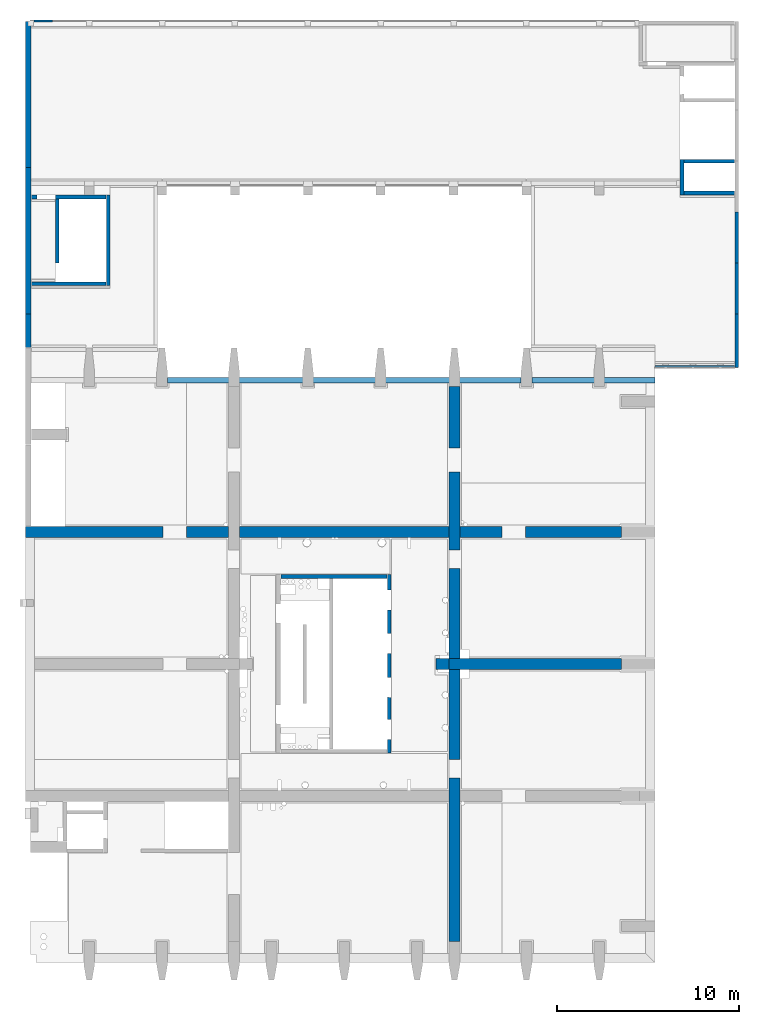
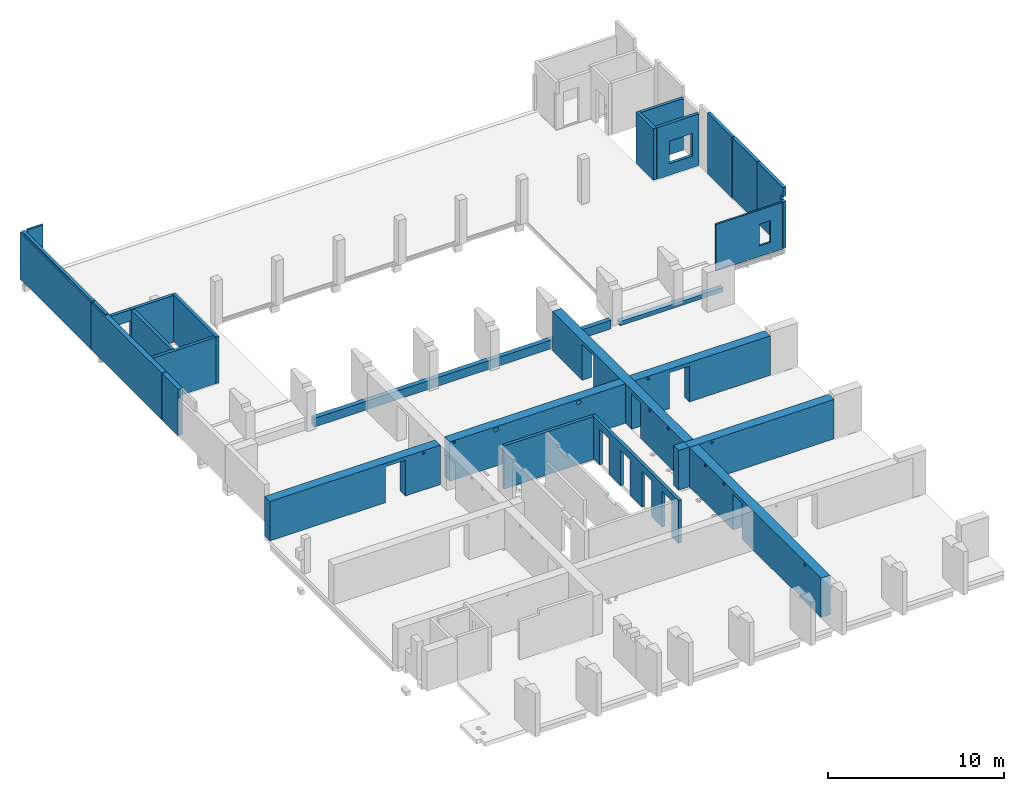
# One storey, part 8 of 10: 24 walls, 36 openings.
"""IFC2X3 building model written with IfcOpenShell, lengths in millimetres."""

from ifc_helpers import new_model, entity, si_unit, converted_unit, derived_unit, direction, frame, frame_2d, origin, origin_2d_with_axis, place, context, subcontext, project, spatial, rectangle, circle, extrude, faceted_brep, material, layer, layer_set, layer_usage, type_object, element, save


model = new_model("IFC2X3")

# Units and contexts
model_context = context("Model", 3, precision=0.01, world=origin(), true_north=direction((6.12303176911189e-17, 1.0)))
body_context = subcontext(model_context, "Body", "Model", "MODEL_VIEW")
ifc_project = project(units=[si_unit("LENGTHUNIT", "METRE", prefix="MILLI"), si_unit("AREAUNIT", "SQUARE_METRE"), si_unit("VOLUMEUNIT", "CUBIC_METRE"), converted_unit("PLANEANGLEUNIT", "DEGREE", entity("IfcRatioMeasure", 0.0174532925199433), si_unit("PLANEANGLEUNIT", "RADIAN"), dimensions=[0, 0, 0, 0, 0, 0, 0]), si_unit("MASSUNIT", "GRAM", prefix="KILO"), derived_unit("MASSDENSITYUNIT", [(si_unit("MASSUNIT", "GRAM", prefix="KILO"), 1), (si_unit("LENGTHUNIT", "METRE"), -3)]), si_unit("TIMEUNIT", "SECOND"), si_unit("FREQUENCYUNIT", "HERTZ"), si_unit("THERMODYNAMICTEMPERATUREUNIT", "DEGREE_CELSIUS"), derived_unit("THERMALTRANSMITTANCEUNIT", [(si_unit("MASSUNIT", "GRAM", prefix="KILO"), 1), (si_unit("THERMODYNAMICTEMPERATUREUNIT", "KELVIN"), -1), (si_unit("TIMEUNIT", "SECOND"), -3)]), derived_unit("VOLUMETRICFLOWRATEUNIT", [(si_unit("LENGTHUNIT", "METRE"), 3), (si_unit("TIMEUNIT", "SECOND"), -1)]), si_unit("ELECTRICCURRENTUNIT", "AMPERE"), si_unit("ELECTRICVOLTAGEUNIT", "VOLT"), si_unit("POWERUNIT", "WATT"), si_unit("FORCEUNIT", "NEWTON", prefix="KILO"), si_unit("ILLUMINANCEUNIT", "LUX"), si_unit("LUMINOUSFLUXUNIT", "LUMEN"), si_unit("LUMINOUSINTENSITYUNIT", "CANDELA"), derived_unit("USERDEFINED", [(si_unit("MASSUNIT", "GRAM", prefix="KILO"), -1), (si_unit("LENGTHUNIT", "METRE"), -2), (si_unit("TIMEUNIT", "SECOND"), 3), (si_unit("LUMINOUSFLUXUNIT", "LUMEN"), 1)]), derived_unit("LINEARVELOCITYUNIT", [(si_unit("LENGTHUNIT", "METRE"), 1), (si_unit("TIMEUNIT", "SECOND"), -1)]), si_unit("PRESSUREUNIT", "PASCAL"), derived_unit("USERDEFINED", [(si_unit("LENGTHUNIT", "METRE"), -2), (si_unit("MASSUNIT", "GRAM", prefix="KILO"), 1), (si_unit("TIMEUNIT", "SECOND"), -2)])], contexts=[model_context])

# Site, building, storey
site_placement = place(None, origin())
site = spatial("IfcSite", under=ifc_project, at=site_placement, Name="Default", CompositionType="ELEMENT")
building_placement = place(site_placement, origin())
building = spatial("IfcBuilding", under=site, at=building_placement, Name="niet gebruiken", CompositionType="ELEMENT")
storey_placement = place(building_placement, frame((0.0, 0.0, 9000.0)))
storey = spatial("IfcBuildingStorey", under=building, at=storey_placement, Name="02 tweede verdieping", CompositionType="ELEMENT", Elevation=9000.00000000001)

# Wall, opening
ifc_material_1 = material(Name="NLRS_f2_beton prefab")
ifc_layer_1 = layer(ifc_material_1, 200.0)
ifc_layer_set_1 = layer_set([ifc_layer_1], Name="Basic Wall:NLRS_21.21_WA_beton prefab d=200_gen")
ifc_layer_usage_1 = layer_usage(ifc_layer_set_1, "AXIS2", "NEGATIVE", 100.0)
wall_type_1 = type_object("IfcWallType", Name="Basic Wall:NLRS_21.21_WA_beton prefab d=200_gen", PredefinedType="STANDARD", material=ifc_layer_set_1)
wall_1_placement = place(storey_placement, frame((163290.0, 33770.0, 850.0), z_axis=(0.0, 0.0, 1.0), x_axis=(0.0, 1.0, 0.0)))
wall_1 = element("IfcWallStandardCase", 1, at=wall_1_placement, inside=storey, type_object=wall_type_1, material=ifc_layer_usage_1, Name="Basic Wall:NLRS_21.21_WA_beton prefab d=200_gen", ObjectType="Basic Wall:NLRS_21.21_WA_beton prefab d=200_gen", context=body_context, shape_type="SweptSolid", body=[
    extrude(rectangle(XDim=2930.00000000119, YDim=200.000000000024, at=frame_2d((1465.00000000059, 0.0), x_axis=(-1.0, 0.0))), origin(), (0.0, 0.0, 1.0), 4214.99999999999),
])
opening_1_placement = place(wall_1_placement, origin())
element("IfcOpeningElement", 2, at=opening_1_placement, cuts=wall_1, Name="Basic Wall:NLRS_21.21_WA_beton prefab d=200_gen", ObjectType="Opening", context=body_context, shape_type="SweptSolid", body=[
    extrude(rectangle(XDim=340.000000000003, YDim=256.999999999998, at=frame_2d((2.1600499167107e-12, 1.08002495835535e-12), x_axis=(0.0, -1.0))), frame((128.499999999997, 100.0, 3390.0), z_axis=(0.0, 1.0, 0.0), x_axis=(1.0, 0.0, 0.0)), (0.0, 0.0, -1.0), 200.0),
])

# Walls
ifc_layer_usage_2 = layer_usage(ifc_layer_set_1, "AXIS2", "NEGATIVE", 100.0)
wall_2_placement = place(storey_placement, frame((163290.0, 36720.0, 850.0), z_axis=(0.0, 0.0, 1.0), x_axis=(0.0, 1.0, 0.0)))
element("IfcWallStandardCase", 3, at=wall_2_placement, inside=storey, type_object=wall_type_1, material=ifc_layer_usage_2, Name="Basic Wall:NLRS_21.21_WA_beton prefab d=200_gen", ObjectType="Basic Wall:NLRS_21.21_WA_beton prefab d=200_gen", context=body_context, shape_type="SweptSolid", body=[
    extrude(rectangle(XDim=2780.0, YDim=200.000000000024, at=frame_2d((1390.0, 0.0), x_axis=(-1.0, 0.0))), origin(), (0.0, 0.0, 1.0), 4214.99999999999),
])
ifc_layer_usage_3 = layer_usage(ifc_layer_set_1, "AXIS2", "NEGATIVE", 100.0)
wall_3_placement = place(storey_placement, frame((163290.0, 39520.0, 850.0), z_axis=(0.0, 0.0, 1.0), x_axis=(0.0, 1.0, 0.0)))
element("IfcWallStandardCase", 4, at=wall_3_placement, inside=storey, type_object=wall_type_1, material=ifc_layer_usage_3, Name="Basic Wall:NLRS_21.21_WA_beton prefab d=200_gen", ObjectType="Basic Wall:NLRS_21.21_WA_beton prefab d=200_gen", context=body_context, shape_type="SweptSolid", body=[
    extrude(rectangle(XDim=2780.0, YDim=200.000000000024, at=frame_2d((1390.0, 0.0), x_axis=(-1.0, 0.0))), origin(), (0.0, 0.0, 1.0), 4214.99999999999),
])
ifc_material_2 = material(Name="NLRS_f2_beton ihwg")
ifc_layer_2 = layer(ifc_material_2, 600.0)
ifc_layer_set_2 = layer_set([ifc_layer_2], Name="Basic Wall:NLRS_22.21_WA_beton ihwg d=600_gen")
ifc_layer_usage_4 = layer_usage(ifc_layer_set_2, "AXIS2", "NEGATIVE", 300.0)
wall_type_2 = type_object("IfcWallType", Name="Basic Wall:NLRS_22.21_WA_beton ihwg d=600_gen", PredefinedType="STANDARD", material=ifc_layer_set_2)
wall_4_placement = place(storey_placement, frame((146800.0, 17500.0, -90.0)))
element("IfcWallStandardCase", 5, at=wall_4_placement, inside=storey, type_object=wall_type_2, material=ifc_layer_usage_4, Name="Basic Wall:NLRS_22.21_WA_beton ihwg d=600_gen", ObjectType="Basic Wall:NLRS_22.21_WA_beton ihwg d=600_gen", context=body_context, shape_type="SweptSolid", body=[
    extrude(rectangle(XDim=700.000000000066, YDim=600.000000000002, at=frame_2d((350.000000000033, 0.0), x_axis=(-1.0, 0.0))), origin(), (0.0, 0.0, 1.0), 2760.0),
])

# Wall, openings
ifc_layer_usage_5 = layer_usage(ifc_layer_set_2, "AXIS2", "NEGATIVE", 300.0)
wall_5_placement = place(storey_placement, frame((124250.0, 24750.0, -90.0)))
wall_5 = element("IfcWallStandardCase", 6, at=wall_5_placement, inside=storey, type_object=wall_type_2, material=ifc_layer_usage_5, Name="Basic Wall:NLRS_22.21_WA_beton ihwg d=600_gen", ObjectType="Basic Wall:NLRS_22.21_WA_beton ihwg d=600_gen", context=body_context, shape_type="SweptSolid", body=[
    extrude(rectangle(XDim=32730.000000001, YDim=600.000000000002, at=frame_2d((16365.0000000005, -7.67386154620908e-13), x_axis=(-1.0, 0.0))), origin(), (0.0, 0.0, 1.0), 2730.0),
])
opening_2_placement = place(storey_placement, frame((124250.0, 24750.0, -90.0)))
element("IfcOpeningElement", 7, at=opening_2_placement, cuts=wall_5, Name="Basic Wall:NLRS_22.21_WA_beton ihwg d=600_gen:1", ObjectType="Opening", context=body_context, shape_type="SweptSolid", body=[
    extrude(rectangle(XDim=2730.0, YDim=599.999999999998, at=frame_2d((0.0, 2.1600499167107e-12), x_axis=(1.0, 0.0))), frame((11150.0, 0.0, 1365.0), z_axis=(1.0, 0.0, 0.0), x_axis=(0.0, 0.0, -1.0)), (0.0, 0.0, 1.0), 600.000000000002),
])
opening_3_placement = place(storey_placement, frame((124250.0, 24750.0, -90.0)))
element("IfcOpeningElement", 8, at=opening_3_placement, cuts=wall_5, Name="Basic Wall:NLRS_22.21_WA_beton ihwg d=600_gen:2", ObjectType="Opening", context=body_context, shape_type="SweptSolid", body=[
    extrude(rectangle(XDim=2730.0, YDim=599.999999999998, at=frame_2d((0.0, 2.1600499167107e-12), x_axis=(1.0, 0.0))), frame((23250.0, 0.0, 1365.0), z_axis=(1.0, 0.0, 0.0), x_axis=(0.0, 0.0, -1.0)), (0.0, 0.0, 1.0), 600.000000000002),
])
opening_4_placement = place(wall_5_placement, origin())
element("IfcOpeningElement", 9, at=opening_4_placement, cuts=wall_5, Name="Basic Wall:NLRS_22.21_WA_beton ihwg d=600_gen", ObjectType="Opening", context=body_context, shape_type="SweptSolid", body=[
    extrude(rectangle(XDim=2490.0, YDim=1300.0, at=frame_2d((1.70530256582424e-12, -8.69704308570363e-12), x_axis=(1.0, 0.0))), frame((8200.0, -300.0, 1245.0), z_axis=(0.0, 1.0, 0.0), x_axis=(0.0, 0.0, -1.0)), (0.0, 0.0, 1.0), 600.000000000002),
])
opening_5_placement = place(wall_5_placement, origin())
element("IfcOpeningElement", 10, at=opening_5_placement, cuts=wall_5, Name="Basic Wall:NLRS_22.21_WA_beton ihwg d=600_gen", ObjectType="Opening", context=body_context, shape_type="SweptSolid", body=[
    extrude(rectangle(XDim=2490.0, YDim=1300.0, at=frame_2d((1.70530256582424e-12, -8.69704308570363e-12), x_axis=(1.0, 0.0))), frame((26800.0, -300.0, 1245.0), z_axis=(0.0, 1.0, 0.0), x_axis=(0.0, 0.0, -1.0)), (0.0, 0.0, 1.0), 600.000000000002),
])
opening_6_placement = place(wall_5_placement, origin())
element("IfcOpeningElement", 11, at=opening_6_placement, cuts=wall_5, Name="Basic Wall:NLRS_22.21_WA_beton ihwg d=600_gen", ObjectType="Opening", context=body_context, shape_type="SweptSolid", body=[
    extrude(circle(Radius=80.0, at=origin_2d_with_axis()), frame((24750.0, -300.0, 2540.0), z_axis=(0.0, 1.0, 0.0), x_axis=(1.0, 0.0, 0.0)), (0.0, 0.0, 1.0), 600.000000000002),
])
opening_7_placement = place(wall_5_placement, origin())
element("IfcOpeningElement", 12, at=opening_7_placement, cuts=wall_5, Name="Basic Wall:NLRS_22.21_WA_beton ihwg d=600_gen", ObjectType="Opening", context=body_context, shape_type="SweptSolid", body=[
    extrude(circle(Radius=157.5, at=origin_2d_with_axis()), frame((20200.0, -300.0, 2530.00023347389), z_axis=(0.0, 1.0, 0.0), x_axis=(-1.0, 0.0, 0.0)), (0.0, 0.0, 1.0), 600.000000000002),
])
opening_8_placement = place(wall_5_placement, origin())
element("IfcOpeningElement", 13, at=opening_8_placement, cuts=wall_5, Name="Basic Wall:NLRS_22.21_WA_beton ihwg d=600_gen", ObjectType="Opening", context=body_context, shape_type="SweptSolid", body=[
    extrude(circle(Radius=157.5, at=origin_2d_with_axis()), frame((14799.9998367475, -300.0, 2530.00013737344), z_axis=(0.0, 1.0, 0.0), x_axis=(-1.0, 0.0, 0.0)), (0.0, 0.0, 1.0), 600.000000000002),
])
opening_9_placement = place(wall_5_placement, origin())
element("IfcOpeningElement", 14, at=opening_9_placement, cuts=wall_5, Name="Basic Wall:NLRS_22.21_WA_beton ihwg d=600_gen", ObjectType="Opening", context=body_context, shape_type="SweptSolid", body=[
    extrude(circle(Radius=80.0, at=origin_2d_with_axis()), frame((10050.0, -300.0, 2540.0), z_axis=(0.0, 1.0, 0.0), x_axis=(1.0, 0.0, 0.0)), (0.0, 0.0, 1.0), 600.000000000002),
])
opening_10_placement = place(wall_5_placement, origin())
element("IfcOpeningElement", 15, at=opening_10_placement, cuts=wall_5, Name="Basic Wall:NLRS_22.21_WA_beton ihwg d=600_gen", ObjectType="Opening", context=body_context, shape_type="SweptSolid", body=[
    extrude(circle(Radius=80.0, at=origin_2d_with_axis()), frame((12065.0, -300.0, 2615.0), z_axis=(0.0, 1.0, 0.0), x_axis=(1.0, 0.0, 0.0)), (0.0, 0.0, 1.0), 600.000000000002),
])

ifc_layer_usage_6 = layer_usage(ifc_layer_set_2, "AXIS2", "NEGATIVE", 300.0)
wall_6_placement = place(storey_placement, frame((147800.0, 2270.0, -90.0), z_axis=(0.0, 0.0, 1.0), x_axis=(0.0, 1.0, 0.0)))
wall_6 = element("IfcWallStandardCase", 16, at=wall_6_placement, inside=storey, type_object=wall_type_2, material=ifc_layer_usage_6, Name="Basic Wall:NLRS_22.21_WA_beton ihwg d=600_gen", ObjectType="Basic Wall:NLRS_22.21_WA_beton ihwg d=600_gen", context=body_context, shape_type="SweptSolid", body=[
    extrude(rectangle(XDim=30460.0000000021, YDim=600.000000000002, at=frame_2d((15230.000000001, 0.0), x_axis=(-1.0, 0.0))), origin(), (0.0, 0.0, 1.0), 2730.0),
])
opening_11_placement = place(storey_placement, frame((147800.0, 2270.0, -90.0), z_axis=(0.0, 0.0, 1.0), x_axis=(0.0, 1.0, 0.0)))
element("IfcOpeningElement", 17, at=opening_11_placement, cuts=wall_6, Name="Basic Wall:NLRS_22.21_WA_beton ihwg d=600_gen:1", ObjectType="Opening", context=body_context, shape_type="SweptSolid", body=[
    extrude(rectangle(XDim=2730.0, YDim=600.000000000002, at=origin_2d_with_axis()), frame((14930.0, 0.0, 1365.0), z_axis=(1.0, 0.0, 0.0), x_axis=(0.0, 0.0, -1.0)), (0.0, 0.0, 1.0), 600.0),
])
opening_12_placement = place(wall_6_placement, origin())
element("IfcOpeningElement", 18, at=opening_12_placement, cuts=wall_6, Name="Basic Wall:NLRS_22.21_WA_beton ihwg d=600_gen", ObjectType="Opening", context=body_context, shape_type="SweptSolid", body=[
    extrude(rectangle(XDim=2475.0, YDim=1016.0, at=frame_2d((-5.6843418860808e-13, -2.1600499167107e-12), x_axis=(1.0, 0.0))), frame((20972.0, -300.0, 1237.5), z_axis=(0.0, 1.0, 0.0), x_axis=(0.0, 0.0, -1.0)), (0.0, 0.0, 1.0), 600.000000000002),
])
opening_13_placement = place(wall_6_placement, origin())
element("IfcOpeningElement", 19, at=opening_13_placement, cuts=wall_6, Name="Basic Wall:NLRS_22.21_WA_beton ihwg d=600_gen", ObjectType="Opening", context=body_context, shape_type="SweptSolid", body=[
    extrude(rectangle(XDim=2475.0, YDim=1016.0, at=frame_2d((-5.6843418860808e-13, 0.0), x_axis=(1.0, 0.0))), frame((9488.0, -300.0, 1237.5), z_axis=(0.0, 1.0, 0.0), x_axis=(0.0, 0.0, -1.0)), (0.0, 0.0, 1.0), 600.000000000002),
])
opening_14_placement = place(wall_6_placement, origin())
element("IfcOpeningElement", 20, at=opening_14_placement, cuts=wall_6, Name="Basic Wall:NLRS_22.21_WA_beton ihwg d=600_gen", ObjectType="Opening", context=body_context, shape_type="SweptSolid", body=[
    extrude(rectangle(XDim=2490.0, YDim=1300.0, at=frame_2d((1.70530256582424e-12, 0.0), x_axis=(1.0, 0.0))), frame((26430.0, -300.0, 1245.0), z_axis=(0.0, 1.0, 0.0), x_axis=(0.0, 0.0, -1.0)), (0.0, 0.0, 1.0), 600.000000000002),
])
opening_15_placement = place(wall_6_placement, origin())
element("IfcOpeningElement", 21, at=opening_15_placement, cuts=wall_6, Name="Basic Wall:NLRS_22.21_WA_beton ihwg d=600_gen", ObjectType="Opening", context=body_context, shape_type="SweptSolid", body=[
    extrude(circle(Radius=100.0, at=origin_2d_with_axis()), frame((19430.0, -300.0, 2570.00000699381), z_axis=(0.0, 1.0, 0.0), x_axis=(1.0, 0.0, 0.0)), (0.0, 0.0, 1.0), 600.000000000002),
])
opening_16_placement = place(wall_6_placement, origin())
element("IfcOpeningElement", 22, at=opening_16_placement, cuts=wall_6, Name="Basic Wall:NLRS_22.21_WA_beton ihwg d=600_gen", ObjectType="Opening", context=body_context, shape_type="SweptSolid", body=[
    extrude(circle(Radius=100.0, at=origin_2d_with_axis()), frame((17334.9988635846, -300.0, 2570.0), z_axis=(0.0, 1.0, 0.0), x_axis=(1.0, 0.0, 0.0)), (0.0, 0.0, 1.0), 600.000000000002),
])
opening_17_placement = place(wall_6_placement, origin())
element("IfcOpeningElement", 23, at=opening_17_placement, cuts=wall_6, Name="Basic Wall:NLRS_22.21_WA_beton ihwg d=600_gen", ObjectType="Opening", context=body_context, shape_type="SweptSolid", body=[
    extrude(circle(Radius=100.0, at=origin_2d_with_axis()), frame((13125.0, -300.0, 2570.0), z_axis=(0.0, 1.0, 0.0), x_axis=(1.0, 0.0, 0.0)), (0.0, 0.0, 1.0), 600.000000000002),
])
opening_18_placement = place(wall_6_placement, origin())
element("IfcOpeningElement", 24, at=opening_18_placement, cuts=wall_6, Name="Basic Wall:NLRS_22.21_WA_beton ihwg d=600_gen", ObjectType="Opening", context=body_context, shape_type="SweptSolid", body=[
    extrude(circle(Radius=100.0, at=origin_2d_with_axis()), frame((11030.0, -300.0, 2570.00000699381), z_axis=(0.0, 1.0, 0.0), x_axis=(1.0, 0.0, 0.0)), (0.0, 0.0, 1.0), 600.000000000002),
])
opening_19_placement = place(wall_6_placement, origin())
element("IfcOpeningElement", 25, at=opening_19_placement, cuts=wall_6, Name="Basic Wall:NLRS_22.21_WA_beton ihwg d=600_gen", ObjectType="Opening", context=body_context, shape_type="SweptSolid", body=[
    extrude(circle(Radius=80.0, at=origin_2d_with_axis()), frame((1839.99999503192, -300.0, 2540.0), z_axis=(0.0, 1.0, 0.0), x_axis=(1.0, 0.0, 0.0)), (0.0, 0.0, 1.0), 600.000000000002),
])

# Wall, opening
ifc_layer_usage_7 = layer_usage(ifc_layer_set_2, "AXIS2", "NEGATIVE", 300.0)
wall_7_placement = place(storey_placement, frame((147500.0, 17500.0, -90.0)))
wall_7 = element("IfcWallStandardCase", 26, at=wall_7_placement, inside=storey, type_object=wall_type_2, material=ifc_layer_usage_7, Name="Basic Wall:NLRS_22.21_WA_beton ihwg d=600_gen", ObjectType="Basic Wall:NLRS_22.21_WA_beton ihwg d=600_gen", context=body_context, shape_type="SweptSolid", body=[
    extrude(rectangle(XDim=9479.99999999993, YDim=600.000000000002, at=frame_2d((4739.99999999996, -6.25277607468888e-13), x_axis=(-1.0, 0.0))), origin(), (0.0, 0.0, 1.0), 2730.0),
])
opening_20_placement = place(wall_7_placement, origin())
element("IfcOpeningElement", 27, at=opening_20_placement, cuts=wall_7, Name="Basic Wall:NLRS_22.21_WA_beton ihwg d=600_gen", ObjectType="Opening", context=body_context, shape_type="SweptSolid", body=[
    extrude(circle(Radius=80.0, at=origin_2d_with_axis()), frame((1500.0, -300.0, 2540.0), z_axis=(0.0, 1.0, 0.0), x_axis=(1.0, 0.0, 0.0)), (0.0, 0.0, 1.0), 600.0),
])

# Wall, openings
ifc_layer_3 = layer(ifc_material_1, 200.0)
ifc_layer_set_3 = layer_set([ifc_layer_3], Name="Basic Wall:NLRS_22.21_WA_beton prefab d=200_gen")
ifc_layer_usage_8 = layer_usage(ifc_layer_set_3, "AXIS2", "NEGATIVE", 100.0)
wall_type_3 = type_object("IfcWallType", Name="Basic Wall:NLRS_22.21_WA_beton prefab d=200_gen", PredefinedType="STANDARD", material=ifc_layer_set_3)
wall_8_placement = place(storey_placement, frame((144230.0, 22400.0, -50.0), z_axis=(0.0, 0.0, 1.0), x_axis=(0.0, -1.0, 0.0)))
wall_8 = element("IfcWallStandardCase", 28, at=wall_8_placement, inside=storey, type_object=wall_type_3, material=ifc_layer_usage_8, Name="Basic Wall:NLRS_22.21_WA_beton prefab d=200_gen", ObjectType="Basic Wall:NLRS_22.21_WA_beton prefab d=200_gen", context=body_context, shape_type="SweptSolid", body=[
    extrude(rectangle(XDim=9800.0, YDim=199.999999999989, at=frame_2d((4900.0, -3.69482222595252e-13), x_axis=(-1.0, 0.0))), origin(), (0.0, 0.0, 1.0), 2980.0),
])
opening_21_placement = place(wall_8_placement, frame((9047.0, -100.0, 0.0)))
element("IfcOpeningElement", 29, at=opening_21_placement, cuts=wall_8, Name="Basic Wall:NLRS_22.21_WA_beton prefab d=200_gen", ObjectType="Opening", context=body_context, shape_type="Brep", body=[
    faceted_brep([(-1104.0, 200.0, 2502.0), (-1104.0, 200.0, 0.0), (-1092.0, 0.0, 0.0), (-1092.0, 0.0, 2490.0), (0.0, 200.0, 0.0), (-12.0, 0.0, 0.0), (-12.0, 0.0, 2490.0), (0.0, 200.0, 2502.0)], [[[0, 1, 2, 3]], [[1, 4, 5, 2]], [[6, 3, 2, 5]], [[7, 4, 1, 0]], [[7, 0, 3, 6]], [[4, 7, 6, 5]]]),
])
opening_22_placement = place(wall_8_placement, frame((6737.0, -100.0, 0.0)))
element("IfcOpeningElement", 30, at=opening_22_placement, cuts=wall_8, Name="Basic Wall:NLRS_22.21_WA_beton prefab d=200_gen", ObjectType="Opening", context=body_context, shape_type="Brep", body=[
    faceted_brep([(-1104.0, 200.0, 2502.0), (-1104.0, 200.0, 0.0), (-1092.0, 0.0, 0.0), (-1092.0, 0.0, 2490.0), (0.0, 200.0, 0.0), (-12.0, 0.0, 0.0), (-12.0, 0.0, 2490.0), (0.0, 200.0, 2502.0)], [[[0, 1, 2, 3]], [[1, 4, 5, 2]], [[6, 3, 2, 5]], [[7, 4, 1, 0]], [[7, 0, 3, 6]], [[4, 7, 6, 5]]]),
])
opening_23_placement = place(wall_8_placement, frame((4332.0, -100.0, 0.0)))
element("IfcOpeningElement", 31, at=opening_23_placement, cuts=wall_8, Name="Basic Wall:NLRS_22.21_WA_beton prefab d=200_gen", ObjectType="Opening", context=body_context, shape_type="Brep", body=[
    faceted_brep([(-1104.0, 200.0, 2502.0), (-1104.0, 200.0, 0.0), (-1092.0, 0.0, 0.0), (-1092.0, 0.0, 2490.0), (0.0, 200.0, 0.0), (-12.0, 0.0, 0.0), (-12.0, 0.0, 2490.0), (0.0, 200.0, 2502.0)], [[[0, 1, 2, 3]], [[1, 4, 5, 2]], [[6, 3, 2, 5]], [[7, 4, 1, 0]], [[7, 0, 3, 6]], [[4, 7, 6, 5]]]),
])
opening_24_placement = place(wall_8_placement, frame((1942.0, -100.0, 0.0)))
element("IfcOpeningElement", 32, at=opening_24_placement, cuts=wall_8, Name="Basic Wall:NLRS_22.21_WA_beton prefab d=200_gen", ObjectType="Opening", context=body_context, shape_type="Brep", body=[
    faceted_brep([(-1104.0, 200.0, 2502.0), (-1104.0, 200.0, 0.0), (-1092.0, 0.0, 0.0), (-1092.0, 0.0, 2490.0), (0.0, 200.0, 0.0), (-12.0, 0.0, 0.0), (-12.0, 0.0, 2490.0), (0.0, 200.0, 2502.0)], [[[0, 1, 2, 3]], [[1, 4, 5, 2]], [[6, 3, 2, 5]], [[7, 4, 1, 0]], [[7, 0, 3, 6]], [[4, 7, 6, 5]]]),
])

# Walls
ifc_layer_usage_9 = layer_usage(ifc_layer_set_3, "AXIS2", "NEGATIVE", 100.0)
wall_9_placement = place(storey_placement, frame((138270.0, 22300.0, -50.0)))
element("IfcWallStandardCase", 33, at=wall_9_placement, inside=storey, type_object=wall_type_3, material=ifc_layer_usage_9, Name="Basic Wall:NLRS_22.21_WA_beton prefab d=200_gen", ObjectType="Basic Wall:NLRS_22.21_WA_beton prefab d=200_gen", context=body_context, shape_type="SweptSolid", body=[
    extrude(rectangle(XDim=5840.00000000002, YDim=199.999999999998, at=frame_2d((2920.00000000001, -7.60280727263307e-13), x_axis=(-1.0, 0.0))), origin(), (0.0, 0.0, 1.0), 2980.0),
])
ifc_layer_usage_10 = layer_usage(ifc_layer_set_3, "AXIS2", "NEGATIVE", 100.0)
wall_10_placement = place(storey_placement, frame((160410.0, 45100.0, 850.0)))
element("IfcWallStandardCase", 34, at=wall_10_placement, inside=storey, type_object=wall_type_3, material=ifc_layer_usage_10, Name="Basic Wall:NLRS_22.21_WA_beton prefab d=200_gen", ObjectType="Basic Wall:NLRS_22.21_WA_beton prefab d=200_gen", context=body_context, shape_type="SweptSolid", body=[
    extrude(rectangle(XDim=2760.00000000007, YDim=200.000000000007, at=frame_2d((1380.00000000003, -2.27373675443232e-13), x_axis=(-1.0, 0.0))), origin(), (0.0, 0.0, 1.0), 3580.0),
])

# Wall, opening
ifc_layer_usage_11 = layer_usage(ifc_layer_set_3, "AXIS2", "NEGATIVE", 100.0)
wall_11_placement = place(storey_placement, frame((160410.0, 43350.0, 850.0)))
wall_11 = element("IfcWallStandardCase", 35, at=wall_11_placement, inside=storey, type_object=wall_type_3, material=ifc_layer_usage_11, Name="Basic Wall:NLRS_22.21_WA_beton prefab d=200_gen", ObjectType="Basic Wall:NLRS_22.21_WA_beton prefab d=200_gen", context=body_context, shape_type="SweptSolid", body=[
    extrude(rectangle(XDim=2760.00000000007, YDim=200.000000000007, at=frame_2d((1380.00000000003, -2.27373675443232e-13), x_axis=(-1.0, 0.0))), origin(), (0.0, 0.0, 1.0), 3580.0),
])
opening_25_placement = place(wall_11_placement, origin())
element("IfcOpeningElement", 36, at=opening_25_placement, cuts=wall_11, Name="Basic Wall:NLRS_22.21_WA_beton prefab d=200_gen", ObjectType="Opening", context=body_context, shape_type="SweptSolid", body=[
    extrude(rectangle(XDim=1575.0, YDim=1500.00000000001, at=frame_2d((-1.08002495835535e-12, 0.0), x_axis=(1.0, 0.0))), frame((1580.0, -100.0, 1587.5), z_axis=(0.0, 1.0, 0.0), x_axis=(0.0, 0.0, -1.0)), (0.0, 0.0, 1.0), 200.000000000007),
])

# Walls
ifc_layer_usage_12 = layer_usage(ifc_layer_set_3, "AXIS2", "NEGATIVE", 100.0)
wall_12_placement = place(storey_placement, frame((160290.0, 43250.0, 850.0), z_axis=(0.0, 0.0, 1.0), x_axis=(0.0, 1.0, 0.0)))
element("IfcWallStandardCase", 37, at=wall_12_placement, inside=storey, type_object=wall_type_3, material=ifc_layer_usage_12, Name="Basic Wall:NLRS_22.21_WA_beton prefab d=200_gen", ObjectType="Basic Wall:NLRS_22.21_WA_beton prefab d=200_gen", context=body_context, shape_type="SweptSolid", body=[
    extrude(rectangle(XDim=1950.00000000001, YDim=200.000000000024, at=frame_2d((975.000000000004, 8.95283847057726e-13), x_axis=(-1.0, 0.0))), origin(), (0.0, 0.0, 1.0), 3580.0),
])
ifc_layer_usage_13 = layer_usage(ifc_layer_set_3, "AXIS2", "NEGATIVE", 100.0)
wall_13_placement = place(storey_placement, frame((128800.0, 38270.0, 850.0), z_axis=(0.0, 0.0, 1.0), x_axis=(0.0, 1.0, 0.0)))
element("IfcWallStandardCase", 38, at=wall_13_placement, inside=storey, type_object=wall_type_3, material=ifc_layer_usage_13, Name="Basic Wall:NLRS_22.21_WA_beton prefab d=200_gen", ObjectType="Basic Wall:NLRS_22.21_WA_beton prefab d=200_gen", context=body_context, shape_type="SweptSolid", body=[
    extrude(rectangle(XDim=4960.0, YDim=199.999999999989, at=frame_2d((2480.0, 0.0), x_axis=(-1.0, 0.0))), origin(), (0.0, 0.0, 1.0), 3215.0),
])

# Wall, openings
ifc_layer_usage_14 = layer_usage(ifc_layer_set_3, "AXIS2", "NEGATIVE", 100.0)
wall_14_placement = place(storey_placement, frame((126000.0, 38490.0, 850.0), z_axis=(0.0, 0.0, 1.0), x_axis=(0.0, 1.0, 0.0)))
wall_14 = element("IfcWallStandardCase", 39, at=wall_14_placement, inside=storey, type_object=wall_type_3, material=ifc_layer_usage_14, Name="Basic Wall:NLRS_22.21_WA_beton prefab d=200_gen", ObjectType="Basic Wall:NLRS_22.21_WA_beton prefab d=200_gen", context=body_context, shape_type="SweptSolid", body=[
    extrude(rectangle(XDim=4520.00000000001, YDim=199.999999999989, at=frame_2d((2260.0, 0.0), x_axis=(-1.0, 0.0))), origin(), (0.0, 0.0, 1.0), 3204.99999999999),
])
opening_26_placement = place(wall_14_placement, origin())
element("IfcOpeningElement", 40, at=opening_26_placement, cuts=wall_14, Name="Basic Wall:NLRS_22.21_WA_beton prefab d=200_gen", ObjectType="Opening", context=body_context, shape_type="SweptSolid", body=[
    extrude(rectangle(XDim=2435.0, YDim=1026.0, at=frame_2d((0.0, 2.1600499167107e-12), x_axis=(1.0, 0.0))), frame((507.0, -100.0, 1217.5), z_axis=(0.0, 1.0, 0.0), x_axis=(0.0, 0.0, -1.0)), (0.0, 0.0, 1.0), 199.999999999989),
])
opening_27_placement = place(wall_14_placement, frame((-18.0, 100.0, 0.0)))
element("IfcOpeningElement", 41, at=opening_27_placement, cuts=wall_14, Name="Basic Wall:NLRS_22.21_WA_beton prefab d=200_gen", ObjectType="Opening", context=body_context, shape_type="Brep", body=[
    faceted_brep([(1038.0, 0.0, 2435.0), (1038.0, 0.0, 0.0), (12.0, 0.0, 0.0), (12.0, 0.0, 2435.0), (1050.0, -200.0, 2447.0), (0.0, -200.0, 2447.0), (0.0, -200.0, 0.0), (1050.0, -200.0, 0.0)], [[[0, 1, 2, 3]], [[4, 5, 6, 7]], [[4, 0, 3, 5]], [[5, 3, 2, 6]], [[6, 2, 1, 7]], [[7, 1, 0, 4]]]),
])

ifc_layer_usage_15 = layer_usage(ifc_layer_set_3, "AXIS2", "NEGATIVE", 100.0)
wall_15_placement = place(storey_placement, frame((124570.0, 43130.0, 850.0)))
wall_15 = element("IfcWallStandardCase", 42, at=wall_15_placement, inside=storey, type_object=wall_type_3, material=ifc_layer_usage_15, Name="Basic Wall:NLRS_22.21_WA_beton prefab d=200_gen", ObjectType="Basic Wall:NLRS_22.21_WA_beton prefab d=200_gen", context=body_context, shape_type="SweptSolid", body=[
    extrude(rectangle(XDim=1330.00000000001, YDim=200.000000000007, at=frame_2d((665.000000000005, -2.35189645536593e-12), x_axis=(-1.0, 0.0))), origin(), (0.0, 0.0, 1.0), 3229.99999999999),
])
opening_28_placement = place(wall_15_placement, origin())
element("IfcOpeningElement", 43, at=opening_28_placement, cuts=wall_15, Name="Basic Wall:NLRS_22.21_WA_beton prefab d=200_gen", ObjectType="Opening", context=body_context, shape_type="SweptSolid", body=[
    extrude(rectangle(XDim=2435.0, YDim=1015.99999999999, at=frame_2d((0.0, -8.66862137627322e-12), x_axis=(1.0, 0.0))), frame((822.0, -100.0, 1217.5), z_axis=(0.0, 1.0, 0.0), x_axis=(0.0, 0.0, -1.0)), (0.0, 0.0, 1.0), 200.000000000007),
])
opening_29_placement = place(wall_15_placement, frame((302.0, -100.0, 0.0)))
element("IfcOpeningElement", 44, at=opening_29_placement, cuts=wall_15, Name="Basic Wall:NLRS_22.21_WA_beton prefab d=200_gen", ObjectType="Opening", context=body_context, shape_type="Brep", body=[
    faceted_brep([(12.0, 200.0, 2435.0), (1028.0, 200.0, 2435.0), (1028.0, 200.0, 0.0), (12.0, 200.0, 0.0), (0.0, 0.0, 2447.0), (0.0, 0.0, 0.0), (1040.0, 0.0, 0.0), (1040.0, 0.0, 2447.0)], [[[0, 1, 2, 3]], [[4, 5, 6, 7]], [[4, 7, 1, 0]], [[7, 6, 2, 1]], [[6, 5, 3, 2]], [[5, 4, 0, 3]]]),
])

# Wall
ifc_layer_usage_16 = layer_usage(ifc_layer_set_3, "AXIS2", "NEGATIVE", 100.0)
wall_16_placement = place(storey_placement, frame((124570.0, 38370.0, 850.0)))
element("IfcWallStandardCase", 45, at=wall_16_placement, inside=storey, type_object=wall_type_3, material=ifc_layer_usage_16, Name="Basic Wall:NLRS_22.21_WA_beton prefab d=200_gen", ObjectType="Basic Wall:NLRS_22.21_WA_beton prefab d=200_gen", context=body_context, shape_type="SweptSolid", body=[
    extrude(rectangle(XDim=4109.99999999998, YDim=199.999999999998, at=frame_2d((2054.99999999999, -3.90798504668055e-13), x_axis=(-1.0, 0.0))), origin(), (0.0, 0.0, 1.0), 3215.0),
])

# Wall, opening
ifc_layer_usage_17 = layer_usage(ifc_layer_set_3, "AXIS2", "NEGATIVE", 100.0)
wall_17_placement = place(storey_placement, frame((125900.0, 43130.0, 850.0)))
wall_17 = element("IfcWallStandardCase", 46, at=wall_17_placement, inside=storey, type_object=wall_type_3, material=ifc_layer_usage_17, Name="Basic Wall:NLRS_22.21_WA_beton prefab d=200_gen", ObjectType="Basic Wall:NLRS_22.21_WA_beton prefab d=200_gen", context=body_context, shape_type="SweptSolid", body=[
    extrude(rectangle(XDim=2780.00000000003, YDim=200.000000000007, at=frame_2d((1390.00000000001, -2.06057393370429e-13), x_axis=(-1.0, 0.0))), origin(), (0.0, 0.0, 1.0), 3229.99999999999),
])
opening_30_placement = place(wall_17_placement, frame((-1028.0, -100.0, 0.0)))
element("IfcOpeningElement", 47, at=opening_30_placement, cuts=wall_17, Name="Basic Wall:NLRS_22.21_WA_beton prefab d=200_gen", ObjectType="Opening", context=body_context, shape_type="Brep", body=[
    faceted_brep([(12.0, 200.0, 2435.0), (1028.0, 200.0, 2435.0), (1028.0, 200.0, 0.0), (12.0, 200.0, 0.0), (0.0, 0.0, 2447.0), (0.0, 0.0, 0.0), (1040.0, 0.0, 0.0), (1040.0, 0.0, 2447.0)], [[[0, 1, 2, 3]], [[4, 5, 6, 7]], [[4, 7, 1, 0]], [[7, 6, 2, 1]], [[6, 5, 3, 2]], [[5, 4, 0, 3]]]),
])

ifc_layer_4 = layer(ifc_material_1, 300.0)
ifc_layer_set_4 = layer_set([ifc_layer_4], Name="Basic Wall:NLRS_22.21_WA_beton prefab d=300_gen")
ifc_layer_usage_18 = layer_usage(ifc_layer_set_4, "AXIS2", "NEGATIVE", 150.0)
wall_type_4 = type_object("IfcWallType", Name="Basic Wall:NLRS_22.21_WA_beton prefab d=300_gen", PredefinedType="STANDARD", material=ifc_layer_set_4)
wall_18_placement = place(storey_placement, frame((124400.0, 44760.0, 850.0), z_axis=(0.0, 0.0, 1.0), x_axis=(0.0, 1.0, 0.0)))
wall_18 = element("IfcWallStandardCase", 48, at=wall_18_placement, inside=storey, type_object=wall_type_4, material=ifc_layer_usage_18, Name="Basic Wall:NLRS_22.21_WA_beton prefab d=300_gen", ObjectType="Basic Wall:NLRS_22.21_WA_beton prefab d=300_gen", context=body_context, shape_type="SweptSolid", body=[
    extrude(rectangle(XDim=8020.0, YDim=300.000000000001, at=frame_2d((4010.0, 0.0), x_axis=(-1.0, 0.0))), origin(), (0.0, 0.0, 1.0), 3285.0),
])
opening_31_placement = place(wall_18_placement, origin())
element("IfcOpeningElement", 49, at=opening_31_placement, cuts=wall_18, Name="Basic Wall:NLRS_22.21_WA_beton prefab d=300_gen", ObjectType="Recess", context=body_context, shape_type="SweptSolid", body=[
    extrude(rectangle(XDim=55.0000000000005, YDim=9530.00000000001, at=frame_2d((-2.16715534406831e-12, 4.09272615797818e-12), x_axis=(1.0, 0.0))), frame((3255.0, 50.0, 3257.5), z_axis=(0.0, 1.0, 0.0), x_axis=(0.0, 0.0, -1.0)), (0.0, 0.0, 1.0), 99.9999999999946),
])

# Wall, openings
ifc_layer_usage_19 = layer_usage(ifc_layer_set_4, "AXIS2", "NEGATIVE", 150.0)
wall_19_placement = place(storey_placement, frame((124400.0, 36720.0, 850.0), z_axis=(0.0, 0.0, 1.0), x_axis=(0.0, 1.0, 0.0)))
wall_19 = element("IfcWallStandardCase", 50, at=wall_19_placement, inside=storey, type_object=wall_type_4, material=ifc_layer_usage_19, Name="Basic Wall:NLRS_22.21_WA_beton prefab d=300_gen", ObjectType="Basic Wall:NLRS_22.21_WA_beton prefab d=300_gen", context=body_context, shape_type="SweptSolid", body=[
    extrude(rectangle(XDim=8020.00000000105, YDim=300.000000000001, at=frame_2d((4010.00000000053, 0.0), x_axis=(-1.0, 0.0))), origin(), (0.0, 0.0, 1.0), 3285.0),
])
opening_32_placement = place(wall_19_placement, origin())
element("IfcOpeningElement", 51, at=opening_32_placement, cuts=wall_19, Name="Basic Wall:NLRS_22.21_WA_beton prefab d=300_gen", ObjectType="Recess", context=body_context, shape_type="SweptSolid", body=[
    extrude(rectangle(XDim=55.0000000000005, YDim=9530.00000000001, at=frame_2d((-2.16715534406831e-12, 4.09272615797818e-12), x_axis=(1.0, 0.0))), frame((11295.0, 50.0, 3257.5), z_axis=(0.0, 1.0, 0.0), x_axis=(0.0, 0.0, -1.0)), (0.0, 0.0, 1.0), 99.9999999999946),
])
opening_33_placement = place(wall_19_placement, origin())
element("IfcOpeningElement", 52, at=opening_33_placement, cuts=wall_19, Name="Basic Wall:NLRS_22.21_WA_beton prefab d=300_gen", ObjectType="Opening", context=body_context, shape_type="SweptSolid", body=[
    extrude(rectangle(XDim=55.0000000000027, YDim=6530.00000000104, at=frame_2d((-4.32009983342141e-12, 1.08357767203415e-12), x_axis=(0.0, 1.0))), frame((3265.0, 150.0, 3257.5), z_axis=(0.0, -1.0, 0.0), x_axis=(-1.0, 0.0, 0.0)), (0.0, 0.0, 1.0), 300.0),
])

# Walls
ifc_layer_usage_20 = layer_usage(ifc_layer_set_4, "AXIS2", "NEGATIVE", 150.0)
wall_20_placement = place(storey_placement, frame((124400.0, 34870.0, 850.0), z_axis=(0.0, 0.0, 1.0), x_axis=(0.0, 1.0, 0.0)))
element("IfcWallStandardCase", 53, at=wall_20_placement, inside=storey, type_object=wall_type_4, material=ifc_layer_usage_20, Name="Basic Wall:NLRS_22.21_WA_beton prefab d=300_gen", ObjectType="Basic Wall:NLRS_22.21_WA_beton prefab d=300_gen", context=body_context, shape_type="SweptSolid", body=[
    extrude(rectangle(XDim=1830.0, YDim=300.000000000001, at=frame_2d((915.000000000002, 0.0), x_axis=(-1.0, 0.0))), origin(), (0.0, 0.0, 1.0), 3229.99999999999),
])
ifc_layer_5 = layer(ifc_material_2, 300.0)
ifc_layer_set_5 = layer_set([ifc_layer_5], Name="Basic Wall:NLRS_21.21_WA_beton ihwg d=300_gen")
ifc_layer_usage_21 = layer_usage(ifc_layer_set_5, "AXIS2", "NEGATIVE", 150.0)
wall_type_5 = type_object("IfcWallType", Name="Basic Wall:NLRS_21.21_WA_beton ihwg d=300_gen", PredefinedType="STANDARD", material=ifc_layer_set_5)
wall_21_placement = place(storey_placement, frame((132050.0, 33080.0, -90.0)))
element("IfcWallStandardCase", 54, at=wall_21_placement, inside=storey, type_object=wall_type_5, material=ifc_layer_usage_21, Name="Basic Wall:NLRS_21.21_WA_beton ihwg d=300_gen", ObjectType="Basic Wall:NLRS_21.21_WA_beton ihwg d=300_gen", context=body_context, shape_type="SweptSolid", body=[
    extrude(rectangle(XDim=19400.0, YDim=300.000000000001, at=frame_2d((9699.99999999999, -9.2370555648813e-13), x_axis=(-1.0, 0.0))), origin(), (0.0, 0.0, 1.0), 600.0),
])
ifc_layer_usage_22 = layer_usage(ifc_layer_set_5, "AXIS2", "NEGATIVE", 150.0)
wall_22_placement = place(storey_placement, frame((152050.0, 33080.0, -90.0)))
element("IfcWallStandardCase", 55, at=wall_22_placement, inside=storey, type_object=wall_type_5, material=ifc_layer_usage_22, Name="Basic Wall:NLRS_21.21_WA_beton ihwg d=300_gen", ObjectType="Basic Wall:NLRS_21.21_WA_beton ihwg d=300_gen", context=body_context, shape_type="SweptSolid", body=[
    extrude(rectangle(XDim=6750.00000000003, YDim=300.000000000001, at=frame_2d((3375.00000000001, -1.25055521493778e-12), x_axis=(-1.0, 0.0))), origin(), (0.0, 0.0, 1.0), 300.000000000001),
])

# Wall, openings
ifc_layer_6 = layer(ifc_material_1, 120.0)
ifc_layer_set_6 = layer_set([ifc_layer_6], Name="Basic Wall:NLRS_21.21_WA_beton prefab d=120_gen")
ifc_layer_usage_23 = layer_usage(ifc_layer_set_6, "AXIS2", "NEGATIVE", 60.0)
wall_type_6 = type_object("IfcWallType", Name="Basic Wall:NLRS_21.21_WA_beton prefab d=120_gen", PredefinedType="STANDARD", material=ifc_layer_set_6)
wall_23_placement = place(storey_placement, frame((158820.0, 33830.0, 830.0)))
wall_23 = element("IfcWallStandardCase", 56, at=wall_23_placement, inside=storey, type_object=wall_type_6, material=ifc_layer_usage_23, Name="Basic Wall:NLRS_21.21_WA_beton prefab d=120_gen", ObjectType="Basic Wall:NLRS_21.21_WA_beton prefab d=120_gen", context=body_context, shape_type="SweptSolid", body=[
    extrude(rectangle(XDim=4350.00000000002, YDim=119.999999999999, at=frame_2d((2175.00000000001, 4.36983782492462e-13), x_axis=(-1.0, 0.0))), origin(), (0.0, 0.0, 1.0), 3218.0),
])
opening_34_placement = place(wall_23_placement, origin())
element("IfcOpeningElement", 57, at=opening_34_placement, cuts=wall_23, Name="Basic Wall:NLRS_21.21_WA_beton prefab d=120_gen", ObjectType="Opening", context=body_context, shape_type="SweptSolid", body=[
    extrude(rectangle(XDim=219.999999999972, YDim=199.999999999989, at=frame_2d((-2.16715534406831e-12, -1.73301373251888e-11), x_axis=(1.0, 0.0))), frame((4250.0, -60.0, 3408.0), z_axis=(0.0, 1.0, 0.0), x_axis=(0.0, 0.0, -1.0)), (0.0, 0.0, 1.0), 119.999999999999),
])
opening_35_placement = place(wall_23_placement, origin())
element("IfcOpeningElement", 58, at=opening_35_placement, cuts=wall_23, Name="Basic Wall:NLRS_21.21_WA_beton prefab d=120_gen", ObjectType="Opening", context=body_context, shape_type="SweptSolid", body=[
    extrude(rectangle(XDim=1500.0, YDim=700.000000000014, at=frame_2d((2.1600499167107e-12, 1.73372427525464e-11), x_axis=(1.0, 0.0))), frame((3200.0, -60.0, 1492.50000000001), z_axis=(0.0, 1.0, 0.0), x_axis=(0.0, 0.0, -1.0)), (0.0, 0.0, 1.0), 119.999999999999),
])

# Wall, opening
ifc_layer_usage_24 = layer_usage(ifc_layer_set_6, "AXIS2", "NEGATIVE", 60.0)
wall_24_placement = place(storey_placement, frame((125740.0, 52790.0, 830.0), z_axis=(0.0, 0.0, 1.0), x_axis=(-1.0, 0.0, 0.0)))
wall_24 = element("IfcWallStandardCase", 59, at=wall_24_placement, inside=storey, type_object=wall_type_6, material=ifc_layer_usage_24, Name="Basic Wall:NLRS_21.21_WA_beton prefab d=120_gen", ObjectType="Basic Wall:NLRS_21.21_WA_beton prefab d=120_gen", context=body_context, shape_type="SweptSolid", body=[
    extrude(rectangle(XDim=1019.99999999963, YDim=120.000000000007, at=frame_2d((509.999999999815, 2.06767936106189e-12), x_axis=(-1.0, 0.0))), origin(), (0.0, 0.0, 1.0), 3290.0),
])
opening_36_placement = place(wall_24_placement, origin())
element("IfcOpeningElement", 60, at=opening_36_placement, cuts=wall_24, Name="Basic Wall:NLRS_21.21_WA_beton prefab d=120_gen", ObjectType="Opening", context=body_context, shape_type="SweptSolid", body=[
    extrude(rectangle(XDim=219.999999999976, YDim=199.999999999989, at=frame_2d((0.0, -1.73301373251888e-11), x_axis=(1.0, 0.0))), frame((4290.0, -60.0, 3408.0), z_axis=(0.0, 1.0, 0.0), x_axis=(0.0, 0.0, -1.0)), (0.0, 0.0, 1.0), 120.000000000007),
])

save(model, "model.ifc")
